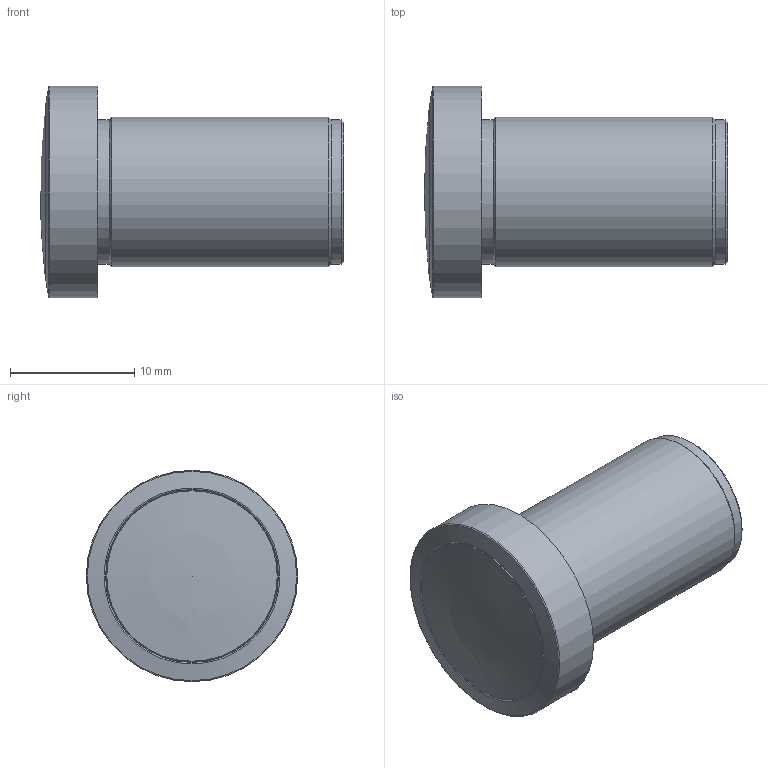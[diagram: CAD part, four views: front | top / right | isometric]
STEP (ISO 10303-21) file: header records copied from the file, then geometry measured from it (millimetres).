
FILE_DESCRIPTION(/* description */ (''),/* implementation_level */ '2;1');
FILE_NAME(/* name */ 'C:\Users\MaxHenkart\Desktop\Commonlands\Product\CIL358\CIL358-F1.9-M12A650.stp',/* time_stamp */ '2023-08-07T15:32:41-07:00',/* author */ ('MaxHenkart'),/* organization */ (''),/* preprocessor_version */ 'ST-DEVELOPER v19',/* originating_system */ 'Autodesk Inventor 2023',/* authorisation */ '');
FILE_SCHEMA (('AUTOMOTIVE_DESIGN { 1 0 10303 214 3 1 1 }'));
Length unit declared in the file: millimetre
Products named in the file (1): CIL358-F1.9-M12A650
Bounding box: 24.37 x 17 x 17 mm (x, y, z)
Volume: 3190.9 mm3; surface area: 1456.3 mm2
Topology: 1 solids, 1 shells, 17 faces, 34 edges, 20 vertices
Faces by surface type: cylinder 6, cone 4, plane 3, torus 3, sphere 1
Full cylindrical faces by diameter (mm): 11.6 x2, 12 x1, 13.8 x1, 13.9 x1, 17 x1
Entity records: 485 total; most frequent: DIRECTION 92, CARTESIAN_POINT 71, ORIENTED_EDGE 66, AXIS2_PLACEMENT_3D 41, EDGE_CURVE 33, CIRCLE 23, VERTEX_POINT 20, EDGE_LOOP 19
